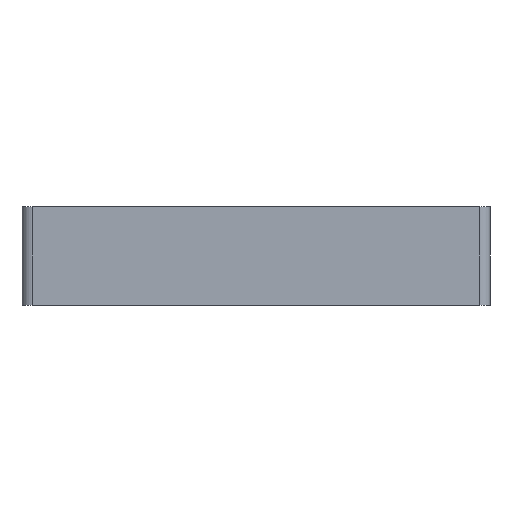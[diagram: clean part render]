
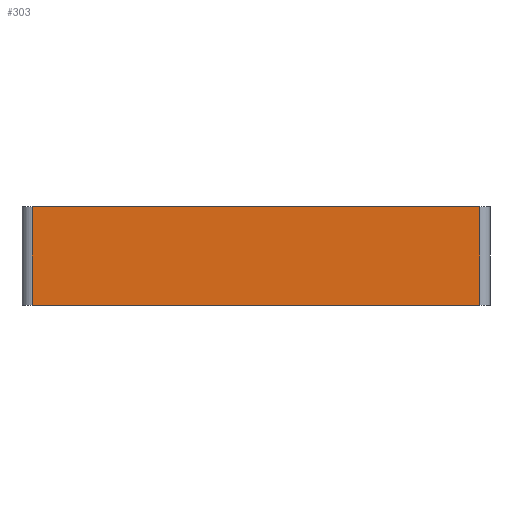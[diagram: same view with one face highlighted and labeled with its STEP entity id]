
A CAD part, left-side view. The second image highlights one B-rep face of the part: STEP entity #303.
In plain terms, the highlighted planar face has unit normal (-1, 0, 0).
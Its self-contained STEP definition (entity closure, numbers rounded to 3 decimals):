
#15 = CARTESIAN_POINT ( 'NONE',  ( -26.083, 34.688, 0. ) ) ;
#127 = LINE ( 'NONE', #156, #693 ) ;
#156 = CARTESIAN_POINT ( 'NONE',  ( -26.083, -51.312, 19. ) ) ;
#167 = DIRECTION ( 'NONE',  ( 1., 0., 0. ) ) ;
#191 = LINE ( 'NONE', #1416, #1207 ) ;
#217 = DIRECTION ( 'NONE',  ( 0., 0., -1. ) ) ;
#260 = EDGE_CURVE ( 'NONE', #1181, #535, #1107, .T. ) ;
#303 = ADVANCED_FACE ( 'NONE', ( #1359 ), #1250, .F. ) ;
#469 = VERTEX_POINT ( 'NONE', #805 ) ;
#535 = VERTEX_POINT ( 'NONE', #1217 ) ;
#609 = EDGE_CURVE ( 'NONE', #1198, #469, #703, .T. ) ;
#657 = VECTOR ( 'NONE', #1105, 1000. ) ;
#663 = ORIENTED_EDGE ( 'NONE', *, *, #609, .F. ) ;
#693 = VECTOR ( 'NONE', #1118, 1000. ) ;
#703 = LINE ( 'NONE', #1464, #657 ) ;
#747 = VECTOR ( 'NONE', #1235, 1000. ) ;
#805 = CARTESIAN_POINT ( 'NONE',  ( -26.083, -51.312, 19. ) ) ;
#990 = EDGE_CURVE ( 'NONE', #1198, #1181, #191, .T. ) ;
#1042 = AXIS2_PLACEMENT_3D ( 'NONE', #1126, #167, #1375 ) ;
#1105 = DIRECTION ( 'NONE',  ( 0., -1., 0. ) ) ;
#1107 = LINE ( 'NONE', #1117, #747 ) ;
#1117 = CARTESIAN_POINT ( 'NONE',  ( -26.083, 36.688, 0. ) ) ;
#1118 = DIRECTION ( 'NONE',  ( 0., 0., 1. ) ) ;
#1126 = CARTESIAN_POINT ( 'NONE',  ( -26.083, 36.688, 19. ) ) ;
#1181 = VERTEX_POINT ( 'NONE', #15 ) ;
#1195 = ORIENTED_EDGE ( 'NONE', *, *, #260, .T. ) ;
#1198 = VERTEX_POINT ( 'NONE', #1338 ) ;
#1207 = VECTOR ( 'NONE', #217, 1000. ) ;
#1217 = CARTESIAN_POINT ( 'NONE',  ( -26.083, -51.312, 0. ) ) ;
#1235 = DIRECTION ( 'NONE',  ( 0., -1., 0. ) ) ;
#1250 = PLANE ( 'NONE',  #1042 ) ;
#1314 = EDGE_CURVE ( 'NONE', #535, #469, #127, .T. ) ;
#1338 = CARTESIAN_POINT ( 'NONE',  ( -26.083, 34.688, 19. ) ) ;
#1359 = FACE_OUTER_BOUND ( 'NONE', #1522, .T. ) ;
#1375 = DIRECTION ( 'NONE',  ( 0., 1., 0. ) ) ;
#1388 = ORIENTED_EDGE ( 'NONE', *, *, #990, .T. ) ;
#1416 = CARTESIAN_POINT ( 'NONE',  ( -26.083, 34.688, 19. ) ) ;
#1464 = CARTESIAN_POINT ( 'NONE',  ( -26.083, 36.688, 19. ) ) ;
#1522 = EDGE_LOOP ( 'NONE', ( #1195, #1538, #663, #1388 ) ) ;
#1538 = ORIENTED_EDGE ( 'NONE', *, *, #1314, .T. ) ;
